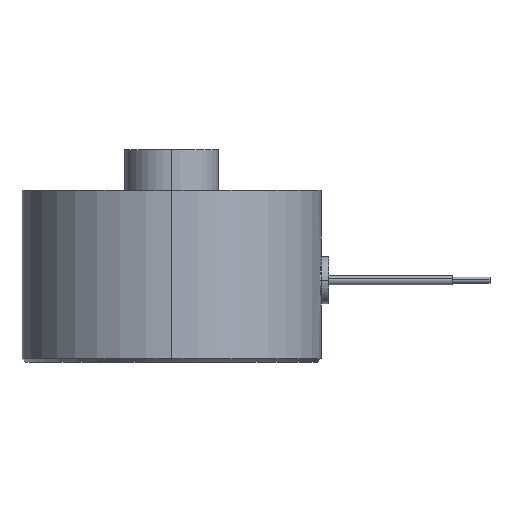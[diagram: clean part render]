
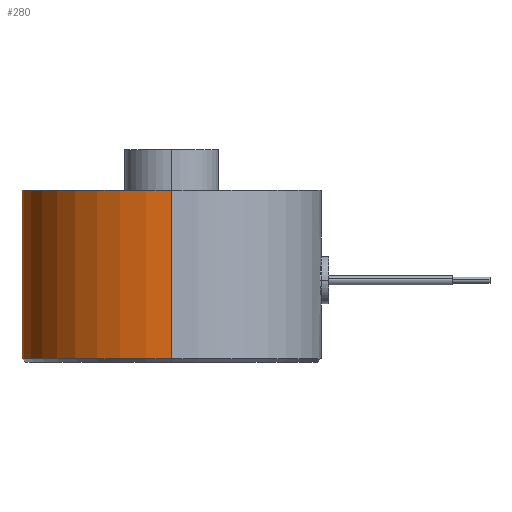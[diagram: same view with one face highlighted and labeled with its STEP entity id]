
A CAD part, left-side view. The second image highlights one B-rep face of the part: STEP entity #280.
In plain terms, the highlighted cylindrical face has radius 20 mm (diameter 40 mm), a partial arc.
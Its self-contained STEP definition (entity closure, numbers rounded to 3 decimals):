
#106 = AXIS2_PLACEMENT_3D ( 'NONE', #4443, #970, #6787 ) ;
#280 = ADVANCED_FACE ( 'NONE', ( #7367 ), #2766, .T. ) ;
#571 = DIRECTION ( 'NONE',  ( 0., 0., -1. ) ) ;
#646 = DIRECTION ( 'NONE',  ( 0., 0., 1. ) ) ;
#687 = CARTESIAN_POINT ( 'NONE',  ( 20., 0., -2.07 ) ) ;
#772 = EDGE_CURVE ( 'NONE', #1631, #7263, #1569, .T. ) ;
#952 = EDGE_CURVE ( 'NONE', #7263, #3117, #5795, .T. ) ;
#970 = DIRECTION ( 'NONE',  ( 0., 0., -1. ) ) ;
#1402 = CARTESIAN_POINT ( 'NONE',  ( -20., 0., 0.5 ) ) ;
#1569 = CIRCLE ( 'NONE', #3997, 20. ) ;
#1631 = VERTEX_POINT ( 'NONE', #6559 ) ;
#2247 = CARTESIAN_POINT ( 'NONE',  ( 0., 0., 23. ) ) ;
#2259 = ORIENTED_EDGE ( 'NONE', *, *, #5910, .T. ) ;
#2529 = CARTESIAN_POINT ( 'NONE',  ( 20., 0., 0.5 ) ) ;
#2561 = ORIENTED_EDGE ( 'NONE', *, *, #952, .T. ) ;
#2617 = LINE ( 'NONE', #6068, #6073 ) ;
#2766 = CYLINDRICAL_SURFACE ( 'NONE', #106, 20. ) ;
#2799 = VECTOR ( 'NONE', #571, 1000. ) ;
#2823 = EDGE_CURVE ( 'NONE', #1631, #6099, #2617, .T. ) ;
#3092 = ORIENTED_EDGE ( 'NONE', *, *, #2823, .F. ) ;
#3117 = VERTEX_POINT ( 'NONE', #2529 ) ;
#3692 = AXIS2_PLACEMENT_3D ( 'NONE', #7205, #646, #7242 ) ;
#3997 = AXIS2_PLACEMENT_3D ( 'NONE', #2247, #6918, #6085 ) ;
#4443 = CARTESIAN_POINT ( 'NONE',  ( 0., 0., -2.07 ) ) ;
#4675 = CIRCLE ( 'NONE', #3692, 20. ) ;
#5765 = EDGE_LOOP ( 'NONE', ( #6447, #2561, #2259, #3092 ) ) ;
#5795 = LINE ( 'NONE', #687, #2799 ) ;
#5910 = EDGE_CURVE ( 'NONE', #3117, #6099, #4675, .T. ) ;
#6068 = CARTESIAN_POINT ( 'NONE',  ( -20., 0., -2.07 ) ) ;
#6073 = VECTOR ( 'NONE', #7181, 1000. ) ;
#6085 = DIRECTION ( 'NONE',  ( -1., 0., 0. ) ) ;
#6099 = VERTEX_POINT ( 'NONE', #1402 ) ;
#6447 = ORIENTED_EDGE ( 'NONE', *, *, #772, .T. ) ;
#6559 = CARTESIAN_POINT ( 'NONE',  ( -20., 0., 23. ) ) ;
#6787 = DIRECTION ( 'NONE',  ( -1., 0., 0. ) ) ;
#6918 = DIRECTION ( 'NONE',  ( 0., 0., -1. ) ) ;
#7181 = DIRECTION ( 'NONE',  ( 0., 0., -1. ) ) ;
#7205 = CARTESIAN_POINT ( 'NONE',  ( 0., 0., 0.5 ) ) ;
#7242 = DIRECTION ( 'NONE',  ( -1., 0., 0. ) ) ;
#7263 = VERTEX_POINT ( 'NONE', #7479 ) ;
#7367 = FACE_OUTER_BOUND ( 'NONE', #5765, .T. ) ;
#7479 = CARTESIAN_POINT ( 'NONE',  ( 20., 0., 23. ) ) ;
